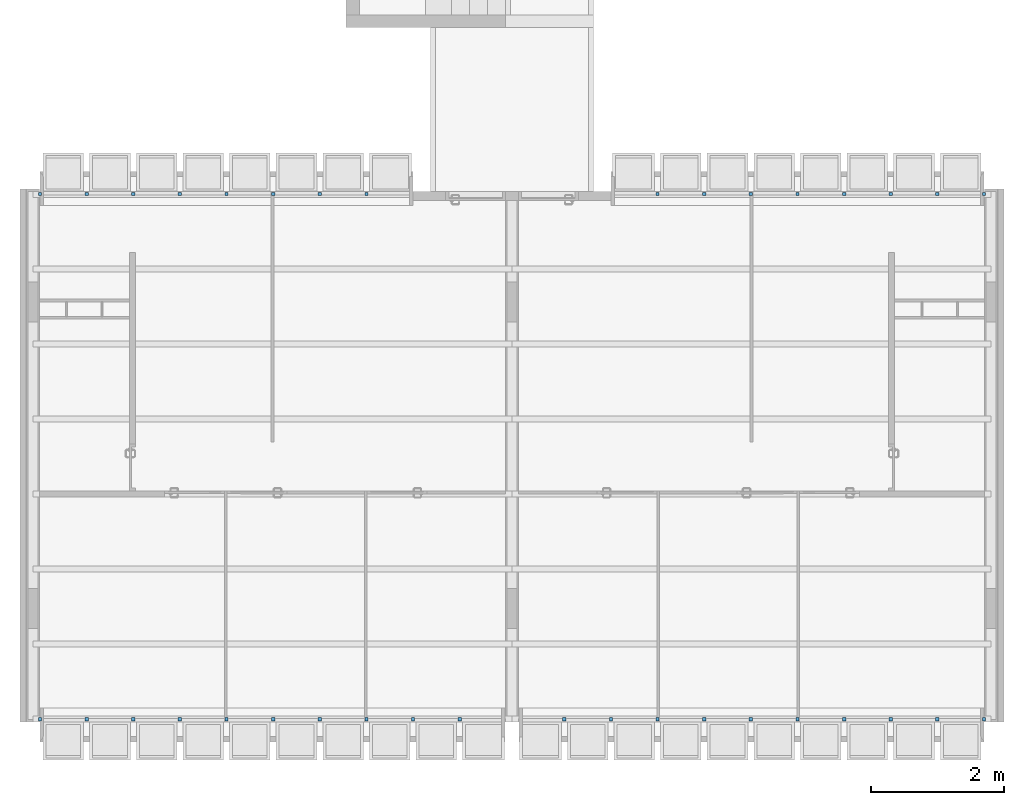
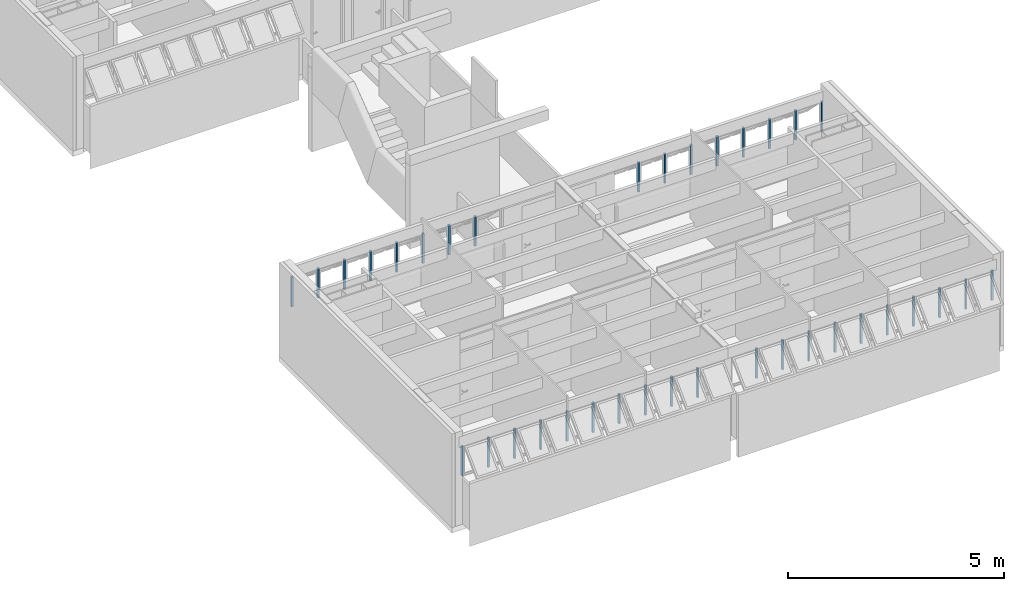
# One storey, part 2 of 38: 36 members, 4 elements without a shape of their own.
"""IFC2X3 building model written with IfcOpenShell, lengths in millimetres."""

from ifc_helpers import new_model, entity, si_unit, converted_unit, derived_unit, money_unit, direction, frame, origin_with_axes, place, context, subcontext, project, spatial, polyline, outline, extrude, material, type_object, element, aggregate, save


model = new_model("IFC2X3")

# Units and contexts
model_context = context("Model", 3, precision=0.01, world=origin_with_axes(), true_north=direction((0.0, 1.0)))
body_context = subcontext(model_context, "Body", "Model", "MODEL_VIEW")
ifc_project = project(units=[si_unit("LENGTHUNIT", "METRE", prefix="MILLI"), si_unit("AREAUNIT", "SQUARE_METRE"), si_unit("VOLUMEUNIT", "CUBIC_METRE"), converted_unit("PLANEANGLEUNIT", "DEGREE", entity("IfcPlaneAngleMeasure", 0.0174532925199), si_unit("PLANEANGLEUNIT", "RADIAN"), dimensions=[0, 0, 0, 0, 0, 0, 0]), money_unit("USD"), converted_unit("TIMEUNIT", "Year", entity("IfcTimeMeasure", 31556926.0), si_unit("TIMEUNIT", "SECOND"), dimensions=[0, 0, 1, 0, 0, 0, 0]), si_unit("MASSUNIT", "GRAM", prefix="KILO"), si_unit("THERMODYNAMICTEMPERATUREUNIT", "DEGREE_CELSIUS"), si_unit("LUMINOUSINTENSITYUNIT", "LUMEN"), si_unit("ENERGYUNIT", "JOULE", prefix="MEGA"), derived_unit("THERMALCONDUCTANCEUNIT", [(si_unit("POWERUNIT", "WATT"), 1), (si_unit("LENGTHUNIT", "METRE"), -1), (si_unit("THERMODYNAMICTEMPERATUREUNIT", "KELVIN"), -1)]), derived_unit("SPECIFICHEATCAPACITYUNIT", [(si_unit("ENERGYUNIT", "JOULE"), 1), (si_unit("MASSUNIT", "GRAM", prefix="KILO"), -1), (si_unit("THERMODYNAMICTEMPERATUREUNIT", "KELVIN"), -1)]), derived_unit("MASSDENSITYUNIT", [(si_unit("MASSUNIT", "GRAM", prefix="KILO"), 1), (si_unit("VOLUMEUNIT", "CUBIC_METRE"), -1)])], contexts=[model_context])

# Site, building, storey
site_placement = place(None, origin_with_axes())
site = spatial("IfcSite", under=ifc_project, at=site_placement, Name="Local", CompositionType="ELEMENT")
building_placement = place(site_placement, origin_with_axes())
building = spatial("IfcBuilding", under=site, at=building_placement, Name="Construção", CompositionType="ELEMENT")
storey_placement = place(building_placement, frame((0.0, 0.0, 2650.0), z_axis=(0.0, 0.0, 1.0), x_axis=(1.0, 0.0, 0.0)))
storey = spatial("IfcBuildingStorey", under=building, at=storey_placement, Name="Segundo Pavimento", CompositionType="ELEMENT", Elevation=2650.0)

# Window, members
window_style = type_object("IfcWindowStyle", Name="Tipo de Parede Cortina", ConstructionType="NOTDEFINED", OperationType="NOTDEFINED", ParameterTakesPrecedence=False, Sizeable=False)
window_1_placement = place(storey_placement, frame((6250.0, 315.020977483, 1355.02054151), z_axis=(0.0, 0.0, 1.0), x_axis=(1.0, 0.0, 0.0)))
window_1 = element("IfcWindow", 1, at=window_1_placement, inside=storey, type_object=window_style, Name="APTO5-JANELA-001")
ifc_material = material(Name="Alumínio")
member_type = type_object("IfcMemberType", Name="Montante 50 x 50", PredefinedType="MULLION")
member_1_placement = place(window_1_placement, frame((-2450.0, 0.0, 0.0), z_axis=(0.0, 0.0, 1.0), x_axis=(-1.0, 0.0, 0.0)))
member_1 = element("IfcMember", 2, at=member_1_placement, type_object=member_type, material=ifc_material, Name="APTO5-PC-Est-Mnt-430", context=body_context, shape_type="SweptSolid", body=[
    extrude(outline(polyline([(-25.0, 50.0), (-25.0, 0.0), (25.0, 0.0), (25.0, 50.0), (-25.0, 50.0)])), frame((0.0, 0.0, 0.0), z_axis=(0.0, 0.0, 1.0), x_axis=(-1.0, 0.0, 0.0)), (0.0, 0.0, 1.0), 844.999891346),
])
member_2_placement = place(window_1_placement, frame((-1750.0, 0.0, 0.0), z_axis=(0.0, 0.0, 1.0), x_axis=(-1.0, 0.0, 0.0)))
member_2 = element("IfcMember", 3, at=member_2_placement, type_object=member_type, material=ifc_material, Name="APTO5-PC-Est-Mnt-485", context=body_context, shape_type="SweptSolid", body=[
    extrude(outline(polyline([(-25.0, 50.0), (-25.0, 0.0), (25.0, 0.0), (25.0, 50.0), (-25.0, 50.0)])), frame((0.0, 0.0, 0.0), z_axis=(0.0, 0.0, 1.0), x_axis=(-1.0, 0.0, 0.0)), (0.0, 0.0, 1.0), 844.999891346),
])
member_3_placement = place(window_1_placement, frame((-1050.0, 0.0, 0.0), z_axis=(0.0, 0.0, 1.0), x_axis=(-1.0, 0.0, 0.0)))
member_3 = element("IfcMember", 4, at=member_3_placement, type_object=member_type, material=ifc_material, Name="APTO5-PC-Est-Mnt-486", context=body_context, shape_type="SweptSolid", body=[
    extrude(outline(polyline([(-25.0, 50.0), (-25.0, 0.0), (25.0, 0.0), (25.0, 50.0), (-25.0, 50.0)])), frame((0.0, 0.0, 0.0), z_axis=(0.0, 0.0, 1.0), x_axis=(-1.0, 0.0, 0.0)), (0.0, 0.0, 1.0), 844.999891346),
])
member_4_placement = place(window_1_placement, frame((-3850.0, 0.0, 0.0), z_axis=(0.0, 0.0, 1.0), x_axis=(-1.0, 0.0, 0.0)))
member_4 = element("IfcMember", 5, at=member_4_placement, type_object=member_type, material=ifc_material, Name="APTO5-PC-Est-Mnt-428", context=body_context, shape_type="SweptSolid", body=[
    extrude(outline(polyline([(-25.0, 50.0), (-25.0, 0.0), (25.0, 0.0), (25.0, 50.0), (-25.0, 50.0)])), frame((0.0, 0.0, 0.0), z_axis=(0.0, 0.0, 1.0), x_axis=(-1.0, 0.0, 0.0)), (0.0, 0.0, 1.0), 844.999891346),
])
member_5_placement = place(window_1_placement, frame((-350.0, 0.0, 0.0), z_axis=(0.0, 0.0, 1.0), x_axis=(-1.0, 0.0, 0.0)))
member_5 = element("IfcMember", 6, at=member_5_placement, type_object=member_type, material=ifc_material, Name="APTO5-PC-Est-Mnt-487", context=body_context, shape_type="SweptSolid", body=[
    extrude(outline(polyline([(-25.0, 50.0), (-25.0, 0.0), (25.0, 0.0), (25.0, 50.0), (-25.0, 50.0)])), frame((0.0, 0.0, 0.0), z_axis=(0.0, 0.0, 1.0), x_axis=(-1.0, 0.0, 0.0)), (0.0, 0.0, 1.0), 844.999891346),
])
member_6_placement = place(window_1_placement, frame((350.0, 0.0, 0.0), z_axis=(0.0, 0.0, 1.0), x_axis=(-1.0, 0.0, 0.0)))
member_6 = element("IfcMember", 7, at=member_6_placement, type_object=member_type, material=ifc_material, Name="APTO5-PC-Est-Mnt-488", context=body_context, shape_type="SweptSolid", body=[
    extrude(outline(polyline([(-25.0, 50.0), (-25.0, 0.0), (25.0, 0.0), (25.0, 50.0), (-25.0, 50.0)])), frame((0.0, 0.0, 0.0), z_axis=(0.0, 0.0, 1.0), x_axis=(-1.0, 0.0, 0.0)), (0.0, 0.0, 1.0), 844.999891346),
])
member_7_placement = place(window_1_placement, frame((-5950.0, 0.0, 0.0), z_axis=(0.0, 0.0, 1.0), x_axis=(-1.0, 0.0, 0.0)))
member_7 = element("IfcMember", 8, at=member_7_placement, type_object=member_type, material=ifc_material, Name="APTO5-PC-Est-Mnt-522", context=body_context, shape_type="SweptSolid", body=[
    extrude(outline(polyline([(-25.0, 50.0), (-25.0, 0.0), (25.0, 0.0), (25.0, 50.0), (-25.0, 50.0)])), frame((0.0, 0.0, 0.0), z_axis=(0.0, 0.0, 1.0), x_axis=(-1.0, 0.0, 0.0)), (0.0, 0.0, 1.0), 844.999891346),
])
member_8_placement = place(window_1_placement, frame((-3150.0, 0.0, 0.0), z_axis=(0.0, 0.0, 1.0), x_axis=(-1.0, 0.0, 0.0)))
member_8 = element("IfcMember", 9, at=member_8_placement, type_object=member_type, material=ifc_material, Name="APTO5-PC-Est-Mnt-429", context=body_context, shape_type="SweptSolid", body=[
    extrude(outline(polyline([(-25.0, 50.0), (-25.0, 0.0), (25.0, 0.0), (25.0, 50.0), (-25.0, 50.0)])), frame((0.0, 0.0, 0.0), z_axis=(0.0, 0.0, 1.0), x_axis=(-1.0, 0.0, 0.0)), (0.0, 0.0, 1.0), 844.999891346),
])
member_9_placement = place(window_1_placement, frame((-4550.0, 0.0, 0.0), z_axis=(0.0, 0.0, 1.0), x_axis=(-1.0, 0.0, 0.0)))
member_9 = element("IfcMember", 10, at=member_9_placement, type_object=member_type, material=ifc_material, Name="APTO5-PC-Est-Mnt-427", context=body_context, shape_type="SweptSolid", body=[
    extrude(outline(polyline([(-25.0, 50.0), (-25.0, 0.0), (25.0, 0.0), (25.0, 50.0), (-25.0, 50.0)])), frame((0.0, 0.0, 0.0), z_axis=(0.0, 0.0, 1.0), x_axis=(-1.0, 0.0, 0.0)), (0.0, 0.0, 1.0), 844.999891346),
])
member_10_placement = place(window_1_placement, frame((-5250.0, 0.0, 0.0), z_axis=(0.0, 0.0, 1.0), x_axis=(-1.0, 0.0, 0.0)))
member_10 = element("IfcMember", 11, at=member_10_placement, type_object=member_type, material=ifc_material, Name="APTO5-PC-Est-Mnt-426", context=body_context, shape_type="SweptSolid", body=[
    extrude(outline(polyline([(-25.0, 50.0), (-25.0, 0.0), (25.0, 0.0), (25.0, 50.0), (-25.0, 50.0)])), frame((0.0, 0.0, 0.0), z_axis=(0.0, 0.0, 1.0), x_axis=(-1.0, 0.0, 0.0)), (0.0, 0.0, 1.0), 844.999891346),
])
aggregate(window_1, [member_1, member_2, member_3, member_4, member_5, member_6, member_7, member_8, member_9, member_10])

window_2_placement = place(storey_placement, frame((2750.0, 8250.0, 1355.00007107), z_axis=(0.0, 0.0, 1.0), x_axis=(1.0, 0.0, 0.0)))
window_2 = element("IfcWindow", 12, at=window_2_placement, inside=storey, type_object=window_style, Name="APTO5-JANELA-000")
member_11_placement = place(window_2_placement, frame((1050.0, 0.0, 0.0), z_axis=(0.0, 0.0, 1.0), x_axis=(-1.0, 0.0, 0.0)))
member_11 = element("IfcMember", 13, at=member_11_placement, type_object=member_type, material=ifc_material, Name="APTO5-PC-Est-Mnt-430", context=body_context, shape_type="SweptSolid", body=[
    extrude(outline(polyline([(-25.0, -50.0), (25.0, -50.0), (25.0, 0.0), (-25.0, 0.0), (-25.0, -50.0)])), frame((0.0, 0.0, 0.0), z_axis=(0.0, 0.0, 1.0), x_axis=(-1.0, 0.0, 0.0)), (0.0, 0.0, 1.0), 844.999928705),
])
member_12_placement = place(window_2_placement, frame((1750.0, 0.0, 0.0), z_axis=(0.0, 0.0, 1.0), x_axis=(-1.0, 0.0, 0.0)))
member_12 = element("IfcMember", 14, at=member_12_placement, type_object=member_type, material=ifc_material, Name="APTO5-PC-Est-Mnt-485", context=body_context, shape_type="SweptSolid", body=[
    extrude(outline(polyline([(-25.0, -50.0), (25.0, -50.0), (25.0, 0.0), (-25.0, 0.0), (-25.0, -50.0)])), frame((0.0, 0.0, 0.0), z_axis=(0.0, 0.0, 1.0), x_axis=(-1.0, 0.0, 0.0)), (0.0, 0.0, 1.0), 844.999928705),
])
member_13_placement = place(window_2_placement, frame((2450.0, 0.0, 0.0), z_axis=(0.0, 0.0, 1.0), x_axis=(-1.0, 0.0, 0.0)))
member_13 = element("IfcMember", 15, at=member_13_placement, type_object=member_type, material=ifc_material, Name="APTO5-PC-Est-Mnt-486", context=body_context, shape_type="SweptSolid", body=[
    extrude(outline(polyline([(-25.0, -50.0), (25.0, -50.0), (25.0, 0.0), (-25.0, 0.0), (-25.0, -50.0)])), frame((0.0, 0.0, 0.0), z_axis=(0.0, 0.0, 1.0), x_axis=(-1.0, 0.0, 0.0)), (0.0, 0.0, 1.0), 844.999928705),
])
member_14_placement = place(window_2_placement, frame((-350.0, 0.0, 0.0), z_axis=(0.0, 0.0, 1.0), x_axis=(-1.0, 0.0, 0.0)))
member_14 = element("IfcMember", 16, at=member_14_placement, type_object=member_type, material=ifc_material, Name="APTO5-PC-Est-Mnt-428", context=body_context, shape_type="SweptSolid", body=[
    extrude(outline(polyline([(-25.0, -50.0), (25.0, -50.0), (25.0, 0.0), (-25.0, 0.0), (-25.0, -50.0)])), frame((0.0, 0.0, 0.0), z_axis=(0.0, 0.0, 1.0), x_axis=(-1.0, 0.0, 0.0)), (0.0, 0.0, 1.0), 844.999928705),
])
member_15_placement = place(window_2_placement, frame((-2450.0, 0.0, 0.0), z_axis=(0.0, 0.0, 1.0), x_axis=(-1.0, 0.0, 0.0)))
member_15 = element("IfcMember", 17, at=member_15_placement, type_object=member_type, material=ifc_material, Name="APTO5-PC-Est-Mnt-560", context=body_context, shape_type="SweptSolid", body=[
    extrude(outline(polyline([(-25.0, -50.0), (25.0, -50.0), (25.0, 0.0), (-25.0, 0.0), (-25.0, -50.0)])), frame((0.0, 0.0, 0.0), z_axis=(0.0, 0.0, 1.0), x_axis=(-1.0, 0.0, 0.0)), (0.0, 0.0, 1.0), 844.999928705),
])
member_16_placement = place(window_2_placement, frame((350.0, 0.0, 0.0), z_axis=(0.0, 0.0, 1.0), x_axis=(-1.0, 0.0, 0.0)))
member_16 = element("IfcMember", 18, at=member_16_placement, type_object=member_type, material=ifc_material, Name="APTO5-PC-Est-Mnt-429", context=body_context, shape_type="SweptSolid", body=[
    extrude(outline(polyline([(-25.0, -50.0), (25.0, -50.0), (25.0, 0.0), (-25.0, 0.0), (-25.0, -50.0)])), frame((0.0, 0.0, 0.0), z_axis=(0.0, 0.0, 1.0), x_axis=(-1.0, 0.0, 0.0)), (0.0, 0.0, 1.0), 844.999928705),
])
member_17_placement = place(window_2_placement, frame((-1050.0, 0.0, 0.0), z_axis=(0.0, 0.0, 1.0), x_axis=(-1.0, 0.0, 0.0)))
member_17 = element("IfcMember", 19, at=member_17_placement, type_object=member_type, material=ifc_material, Name="APTO5-PC-Est-Mnt-427", context=body_context, shape_type="SweptSolid", body=[
    extrude(outline(polyline([(-25.0, -50.0), (25.0, -50.0), (25.0, 0.0), (-25.0, 0.0), (-25.0, -50.0)])), frame((0.0, 0.0, 0.0), z_axis=(0.0, 0.0, 1.0), x_axis=(-1.0, 0.0, 0.0)), (0.0, 0.0, 1.0), 844.999928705),
])
member_18_placement = place(window_2_placement, frame((-1750.0, 0.0, 0.0), z_axis=(0.0, 0.0, 1.0), x_axis=(-1.0, 0.0, 0.0)))
member_18 = element("IfcMember", 20, at=member_18_placement, type_object=member_type, material=ifc_material, Name="APTO5-PC-Est-Mnt-426", context=body_context, shape_type="SweptSolid", body=[
    extrude(outline(polyline([(-25.0, -50.0), (25.0, -50.0), (25.0, 0.0), (-25.0, 0.0), (-25.0, -50.0)])), frame((0.0, 0.0, 0.0), z_axis=(0.0, 0.0, 1.0), x_axis=(-1.0, 0.0, 0.0)), (0.0, 0.0, 1.0), 844.999928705),
])
aggregate(window_2, [member_11, member_12, member_13, member_14, member_15, member_16, member_17, member_18])

window_3_placement = place(storey_placement, frame((12020.0, 8250.0, 1355.00007107), z_axis=(0.0, 0.0, 1.0), x_axis=(1.0, 0.0, 0.0)))
window_3 = element("IfcWindow", 21, at=window_3_placement, inside=storey, type_object=window_style, Name="APTO6-JANELA-000")
member_19_placement = place(window_3_placement, frame((-1050.0, 0.0, 0.0), z_axis=(0.0, 0.0, 1.0), x_axis=(1.0, 0.0, 0.0)))
member_19 = element("IfcMember", 22, at=member_19_placement, type_object=member_type, material=ifc_material, Name="APTO6-PC-Est-Mnt-430", context=body_context, shape_type="SweptSolid", body=[
    extrude(outline(polyline([(25.0, -50.0), (25.0, 0.0), (-25.0, 0.0), (-25.0, -50.0), (25.0, -50.0)])), origin_with_axes(), (0.0, 0.0, 1.0), 844.999891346),
])
member_20_placement = place(window_3_placement, frame((-1750.0, 0.0, 0.0), z_axis=(0.0, 0.0, 1.0), x_axis=(1.0, 0.0, 0.0)))
member_20 = element("IfcMember", 23, at=member_20_placement, type_object=member_type, material=ifc_material, Name="APTO6-PC-Est-Mnt-485", context=body_context, shape_type="SweptSolid", body=[
    extrude(outline(polyline([(25.0, -50.0), (25.0, 0.0), (-25.0, 0.0), (-25.0, -50.0), (25.0, -50.0)])), origin_with_axes(), (0.0, 0.0, 1.0), 844.999891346),
])
member_21_placement = place(window_3_placement, frame((-2450.0, 0.0, 0.0), z_axis=(0.0, 0.0, 1.0), x_axis=(1.0, 0.0, 0.0)))
member_21 = element("IfcMember", 24, at=member_21_placement, type_object=member_type, material=ifc_material, Name="APTO6-PC-Est-Mnt-486", context=body_context, shape_type="SweptSolid", body=[
    extrude(outline(polyline([(25.0, -50.0), (25.0, 0.0), (-25.0, 0.0), (-25.0, -50.0), (25.0, -50.0)])), origin_with_axes(), (0.0, 0.0, 1.0), 844.999891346),
])
member_22_placement = place(window_3_placement, frame((350.0, 0.0, 0.0), z_axis=(0.0, 0.0, 1.0), x_axis=(1.0, 0.0, 0.0)))
member_22 = element("IfcMember", 25, at=member_22_placement, type_object=member_type, material=ifc_material, Name="APTO6-PC-Est-Mnt-428", context=body_context, shape_type="SweptSolid", body=[
    extrude(outline(polyline([(25.0, -50.0), (25.0, 0.0), (-25.0, 0.0), (-25.0, -50.0), (25.0, -50.0)])), origin_with_axes(), (0.0, 0.0, 1.0), 844.999891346),
])
member_23_placement = place(window_3_placement, frame((2450.0, 0.0, 0.0), z_axis=(0.0, 0.0, 1.0), x_axis=(1.0, 0.0, 0.0)))
member_23 = element("IfcMember", 26, at=member_23_placement, type_object=member_type, material=ifc_material, Name="APTO6-PC-Est-Mnt-560", context=body_context, shape_type="SweptSolid", body=[
    extrude(outline(polyline([(25.0, -50.0), (25.0, 0.0), (-25.0, 0.0), (-25.0, -50.0), (25.0, -50.0)])), origin_with_axes(), (0.0, 0.0, 1.0), 844.999891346),
])
member_24_placement = place(window_3_placement, frame((-350.0, 0.0, 0.0), z_axis=(0.0, 0.0, 1.0), x_axis=(1.0, 0.0, 0.0)))
member_24 = element("IfcMember", 27, at=member_24_placement, type_object=member_type, material=ifc_material, Name="APTO6-PC-Est-Mnt-429", context=body_context, shape_type="SweptSolid", body=[
    extrude(outline(polyline([(25.0, -50.0), (25.0, 0.0), (-25.0, 0.0), (-25.0, -50.0), (25.0, -50.0)])), origin_with_axes(), (0.0, 0.0, 1.0), 844.999891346),
])
member_25_placement = place(window_3_placement, frame((1050.0, 0.0, 0.0), z_axis=(0.0, 0.0, 1.0), x_axis=(1.0, 0.0, 0.0)))
member_25 = element("IfcMember", 28, at=member_25_placement, type_object=member_type, material=ifc_material, Name="APTO6-PC-Est-Mnt-427", context=body_context, shape_type="SweptSolid", body=[
    extrude(outline(polyline([(25.0, -50.0), (25.0, 0.0), (-25.0, 0.0), (-25.0, -50.0), (25.0, -50.0)])), origin_with_axes(), (0.0, 0.0, 1.0), 844.999891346),
])
member_26_placement = place(window_3_placement, frame((1750.0, 0.0, 0.0), z_axis=(0.0, 0.0, 1.0), x_axis=(1.0, 0.0, 0.0)))
member_26 = element("IfcMember", 29, at=member_26_placement, type_object=member_type, material=ifc_material, Name="APTO6-PC-Est-Mnt-426", context=body_context, shape_type="SweptSolid", body=[
    extrude(outline(polyline([(25.0, -50.0), (25.0, 0.0), (-25.0, 0.0), (-25.0, -50.0), (25.0, -50.0)])), origin_with_axes(), (0.0, 0.0, 1.0), 844.999891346),
])
aggregate(window_3, [member_19, member_20, member_21, member_22, member_23, member_24, member_25, member_26])

window_4_placement = place(storey_placement, frame((8520.0, 315.020977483, 1355.02054151), z_axis=(0.0, 0.0, 1.0), x_axis=(1.0, 0.0, 0.0)))
window_4 = element("IfcWindow", 30, at=window_4_placement, inside=storey, type_object=window_style, Name="APTO6-JANELA-001")
member_27_placement = place(window_4_placement, frame((2450.0, 0.0, 0.0), z_axis=(0.0, 0.0, 1.0), x_axis=(1.0, 0.0, 0.0)))
member_27 = element("IfcMember", 31, at=member_27_placement, type_object=member_type, material=ifc_material, Name="APTO6-PC-Est-Mnt-430", context=body_context, shape_type="SweptSolid", body=[
    extrude(outline(polyline([(25.0, 50.0), (-25.0, 50.0), (-25.0, 0.0), (25.0, 0.0), (25.0, 50.0)])), origin_with_axes(), (0.0, 0.0, 1.0), 844.999928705),
])
member_28_placement = place(window_4_placement, frame((1750.0, 0.0, 0.0), z_axis=(0.0, 0.0, 1.0), x_axis=(1.0, 0.0, 0.0)))
member_28 = element("IfcMember", 32, at=member_28_placement, type_object=member_type, material=ifc_material, Name="APTO6-PC-Est-Mnt-485", context=body_context, shape_type="SweptSolid", body=[
    extrude(outline(polyline([(25.0, 50.0), (-25.0, 50.0), (-25.0, 0.0), (25.0, 0.0), (25.0, 50.0)])), origin_with_axes(), (0.0, 0.0, 1.0), 844.999928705),
])
member_29_placement = place(window_4_placement, frame((1050.0, 0.0, 0.0), z_axis=(0.0, 0.0, 1.0), x_axis=(1.0, 0.0, 0.0)))
member_29 = element("IfcMember", 33, at=member_29_placement, type_object=member_type, material=ifc_material, Name="APTO6-PC-Est-Mnt-486", context=body_context, shape_type="SweptSolid", body=[
    extrude(outline(polyline([(25.0, 50.0), (-25.0, 50.0), (-25.0, 0.0), (25.0, 0.0), (25.0, 50.0)])), origin_with_axes(), (0.0, 0.0, 1.0), 844.999928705),
])
member_30_placement = place(window_4_placement, frame((3850.0, 0.0, 0.0), z_axis=(0.0, 0.0, 1.0), x_axis=(1.0, 0.0, 0.0)))
member_30 = element("IfcMember", 34, at=member_30_placement, type_object=member_type, material=ifc_material, Name="APTO6-PC-Est-Mnt-428", context=body_context, shape_type="SweptSolid", body=[
    extrude(outline(polyline([(25.0, 50.0), (-25.0, 50.0), (-25.0, 0.0), (25.0, 0.0), (25.0, 50.0)])), origin_with_axes(), (0.0, 0.0, 1.0), 844.999928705),
])
member_31_placement = place(window_4_placement, frame((350.0, 0.0, 0.0), z_axis=(0.0, 0.0, 1.0), x_axis=(1.0, 0.0, 0.0)))
member_31 = element("IfcMember", 35, at=member_31_placement, type_object=member_type, material=ifc_material, Name="APTO6-PC-Est-Mnt-487", context=body_context, shape_type="SweptSolid", body=[
    extrude(outline(polyline([(25.0, 50.0), (-25.0, 50.0), (-25.0, 0.0), (25.0, 0.0), (25.0, 50.0)])), origin_with_axes(), (0.0, 0.0, 1.0), 844.999928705),
])
member_32_placement = place(window_4_placement, frame((-350.0, 0.0, 0.0), z_axis=(0.0, 0.0, 1.0), x_axis=(1.0, 0.0, 0.0)))
member_32 = element("IfcMember", 36, at=member_32_placement, type_object=member_type, material=ifc_material, Name="APTO6-PC-Est-Mnt-488", context=body_context, shape_type="SweptSolid", body=[
    extrude(outline(polyline([(25.0, 50.0), (-25.0, 50.0), (-25.0, 0.0), (25.0, 0.0), (25.0, 50.0)])), origin_with_axes(), (0.0, 0.0, 1.0), 844.999928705),
])
member_33_placement = place(window_4_placement, frame((5950.0, 0.0, 0.0), z_axis=(0.0, 0.0, 1.0), x_axis=(1.0, 0.0, 0.0)))
member_33 = element("IfcMember", 37, at=member_33_placement, type_object=member_type, material=ifc_material, Name="APTO6-PC-Est-Mnt-522", context=body_context, shape_type="SweptSolid", body=[
    extrude(outline(polyline([(25.0, 50.0), (-25.0, 50.0), (-25.0, 0.0), (25.0, 0.0), (25.0, 50.0)])), origin_with_axes(), (0.0, 0.0, 1.0), 844.999928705),
])
member_34_placement = place(window_4_placement, frame((3150.0, 0.0, 0.0), z_axis=(0.0, 0.0, 1.0), x_axis=(1.0, 0.0, 0.0)))
member_34 = element("IfcMember", 38, at=member_34_placement, type_object=member_type, material=ifc_material, Name="APTO6-PC-Est-Mnt-429", context=body_context, shape_type="SweptSolid", body=[
    extrude(outline(polyline([(25.0, 50.0), (-25.0, 50.0), (-25.0, 0.0), (25.0, 0.0), (25.0, 50.0)])), origin_with_axes(), (0.0, 0.0, 1.0), 844.999928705),
])
member_35_placement = place(window_4_placement, frame((4550.0, 0.0, 0.0), z_axis=(0.0, 0.0, 1.0), x_axis=(1.0, 0.0, 0.0)))
member_35 = element("IfcMember", 39, at=member_35_placement, type_object=member_type, material=ifc_material, Name="APTO6-PC-Est-Mnt-427", context=body_context, shape_type="SweptSolid", body=[
    extrude(outline(polyline([(25.0, 50.0), (-25.0, 50.0), (-25.0, 0.0), (25.0, 0.0), (25.0, 50.0)])), origin_with_axes(), (0.0, 0.0, 1.0), 844.999928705),
])
member_36_placement = place(window_4_placement, frame((5250.0, 0.0, 0.0), z_axis=(0.0, 0.0, 1.0), x_axis=(1.0, 0.0, 0.0)))
member_36 = element("IfcMember", 40, at=member_36_placement, type_object=member_type, material=ifc_material, Name="APTO6-PC-Est-Mnt-426", context=body_context, shape_type="SweptSolid", body=[
    extrude(outline(polyline([(25.0, 50.0), (-25.0, 50.0), (-25.0, 0.0), (25.0, 0.0), (25.0, 50.0)])), origin_with_axes(), (0.0, 0.0, 1.0), 844.999928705),
])
aggregate(window_4, [member_27, member_28, member_29, member_30, member_31, member_32, member_33, member_34, member_35, member_36])

save(model, "model.ifc")
